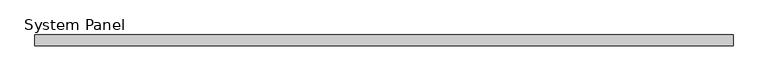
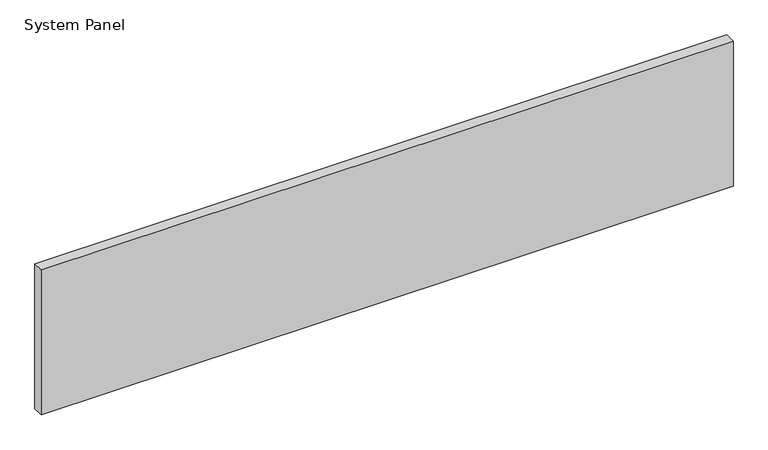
"""IFC4 building model written with IfcOpenShell, lengths in millimetres: plate geometry, System Panel : Glazed - ACMP (AL-1)."""

from ifc_helpers import new_model, si_unit, origin, origin_with_axes, place, context, project, spatial, polyline, outline, extrude, source, transform, mapped, element, save


def system_panel_917243fb(model_context):
    return source(origin(), model_context, "Body", "SweptSolid", [
        extrude(outline(polyline([(815.975003, -25.4), (-815.975003, -25.4), (-815.975003, 0.0), (815.975003, 0.0), (815.975003, -25.4)])), origin_with_axes(), (0.0, 0.0, 1.0), 361.95),
    ])


if __name__ == "__main__":
    model = new_model("IFC4")
    model_context = context("Model", 3, world=origin())
    ifc_project = project(units=[si_unit("LENGTHUNIT", "METRE", prefix="MILLI")], contexts=[model_context])
    site = spatial("IfcSite", under=ifc_project)
    building = spatial("IfcBuilding", under=site)
    placement = place(None, origin())
    system_panel_shape = system_panel_917243fb(model_context)
    element("IfcPlate", 1, ObjectType="System Panel : Glazed - ACMP (AL-1)", at=placement, inside=building, context=model_context, shape_type="MappedRepresentation", body=[
        mapped(system_panel_shape, transform((0.0, 0.0, 0.0), x_axis=(1.0, 0.0, 0.0), y_axis=(0.0, 1.0, 0.0), z_axis=(0.0, 0.0, 1.0))),
    ])
    save(model, "model.ifc")
